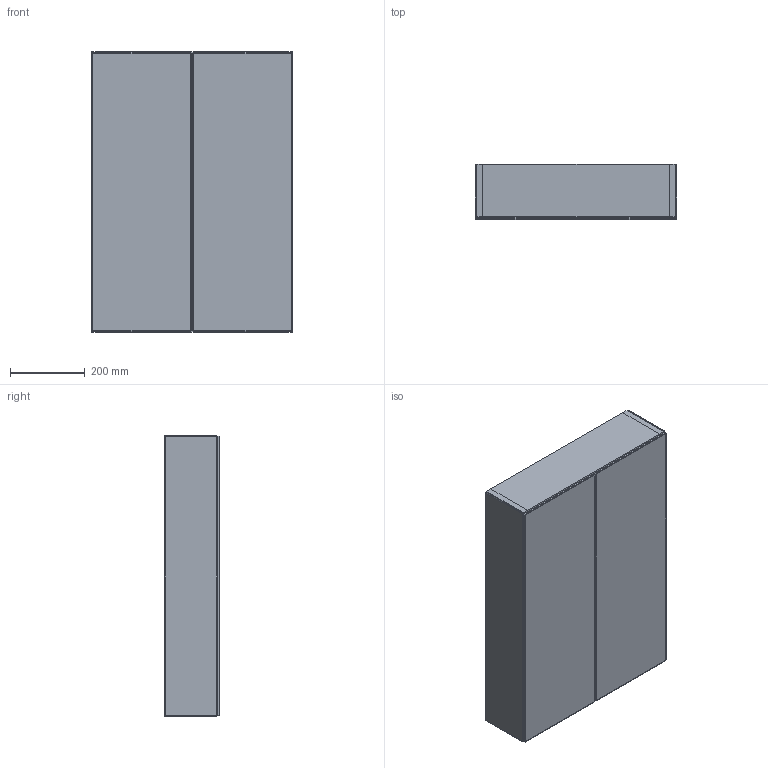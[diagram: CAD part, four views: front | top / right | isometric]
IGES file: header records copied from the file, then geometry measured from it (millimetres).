
Start section: Data from Parasolid IGES Translator 19.0.9, Copyright(c) 2006 Siemens PL M Software. All Rights Reserved.
Global section: file name: noorth-mirror-H 75 D 14,7 W 54_9060.igs; native system: By Siemens PLM Incorporated; preprocessor: XPlus GENERIC/IGES 19.0.9; author: Noname; organization: Noname; date: 20200519.095502; units: metre
Bounding box: 539.82 x 147 x 750 mm (x, y, z)
Volume: 10846195.2 mm3; surface area: 3066965.9 mm2
Topology: 12 solids, 12 shells, 196 faces, 372 edges, 200 vertices
Faces by surface type: plane 196
